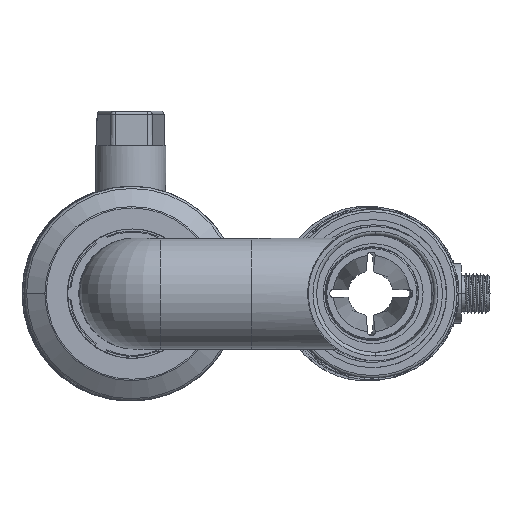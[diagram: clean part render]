
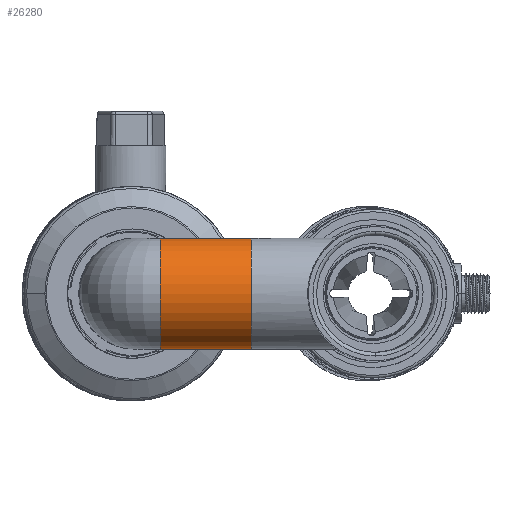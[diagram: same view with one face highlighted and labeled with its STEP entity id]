
A CAD part, left-side view. The second image highlights one B-rep face of the part: STEP entity #26280.
In plain terms, the highlighted cylindrical face has radius 28.575 mm (diameter 57.15 mm), a partial arc.
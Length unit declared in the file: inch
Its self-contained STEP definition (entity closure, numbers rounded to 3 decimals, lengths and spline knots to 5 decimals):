
#549 = VERTEX_POINT ( 'NONE', #39636 ) ;
#2716 = ORIENTED_EDGE ( 'NONE', *, *, #31643, .T. ) ;
#5371 = DIRECTION ( 'NONE',  ( 0., 0., 1. ) ) ;
#6918 = CARTESIAN_POINT ( 'NONE',  ( -18.71876, 4.46227, 0. ) ) ;
#7994 = CIRCLE ( 'NONE', #29697, 1.125 ) ;
#11552 = DIRECTION ( 'NONE',  ( 0.009, -1., 0. ) ) ;
#12750 = VERTEX_POINT ( 'NONE', #51102 ) ;
#13055 = DIRECTION ( 'NONE',  ( 0., 0., -1. ) ) ;
#13206 = EDGE_CURVE ( 'NONE', #12750, #44508, #7994, .T. ) ;
#17314 = FACE_OUTER_BOUND ( 'NONE', #66309, .T. ) ;
#20940 = ORIENTED_EDGE ( 'NONE', *, *, #13206, .F. ) ;
#21737 = AXIS2_PLACEMENT_3D ( 'NONE', #66693, #33062, #72327 ) ;
#26280 = ADVANCED_FACE ( 'NONE', ( #17314 ), #68231, .T. ) ;
#27342 = LINE ( 'NONE', #45190, #57193 ) ;
#27588 = ORIENTED_EDGE ( 'NONE', *, *, #31388, .F. ) ;
#29554 = DIRECTION ( 'NONE',  ( 0.009, -1., 0. ) ) ;
#29697 = AXIS2_PLACEMENT_3D ( 'NONE', #72653, #38982, #5371 ) ;
#30856 = DIRECTION ( 'NONE',  ( 0.009, -1., 0. ) ) ;
#31388 = EDGE_CURVE ( 'NONE', #44508, #549, #27342, .T. ) ;
#31643 = EDGE_CURVE ( 'NONE', #12750, #38911, #48294, .T. ) ;
#33062 = DIRECTION ( 'NONE',  ( -0.009, 1., 0. ) ) ;
#38911 = VERTEX_POINT ( 'NONE', #61055 ) ;
#38982 = DIRECTION ( 'NONE',  ( -0.009, 1., 0. ) ) ;
#39636 = CARTESIAN_POINT ( 'NONE',  ( -18.70957, 3.46231, 1.125 ) ) ;
#41559 = CIRCLE ( 'NONE', #21737, 1.125 ) ;
#44508 = VERTEX_POINT ( 'NONE', #65736 ) ;
#45190 = CARTESIAN_POINT ( 'NONE',  ( -18.71876, 4.46227, 1.125 ) ) ;
#48294 = LINE ( 'NONE', #58874, #61488 ) ;
#48373 = AXIS2_PLACEMENT_3D ( 'NONE', #6918, #29554, #13055 ) ;
#51102 = CARTESIAN_POINT ( 'NONE',  ( -18.72651, 5.30623, -1.125 ) ) ;
#57193 = VECTOR ( 'NONE', #11552, 39.37008 ) ;
#57646 = ORIENTED_EDGE ( 'NONE', *, *, #60311, .T. ) ;
#58874 = CARTESIAN_POINT ( 'NONE',  ( -18.71876, 4.46227, -1.125 ) ) ;
#60311 = EDGE_CURVE ( 'NONE', #38911, #549, #41559, .T. ) ;
#61055 = CARTESIAN_POINT ( 'NONE',  ( -18.70957, 3.46231, -1.125 ) ) ;
#61488 = VECTOR ( 'NONE', #30856, 39.37008 ) ;
#65736 = CARTESIAN_POINT ( 'NONE',  ( -18.72651, 5.30623, 1.125 ) ) ;
#66309 = EDGE_LOOP ( 'NONE', ( #27588, #20940, #2716, #57646 ) ) ;
#66693 = CARTESIAN_POINT ( 'NONE',  ( -18.70957, 3.46231, 0. ) ) ;
#68231 = CYLINDRICAL_SURFACE ( 'NONE', #48373, 1.125 ) ;
#72327 = DIRECTION ( 'NONE',  ( 0., 0., 1. ) ) ;
#72653 = CARTESIAN_POINT ( 'NONE',  ( -18.72651, 5.30623, 0. ) ) ;
